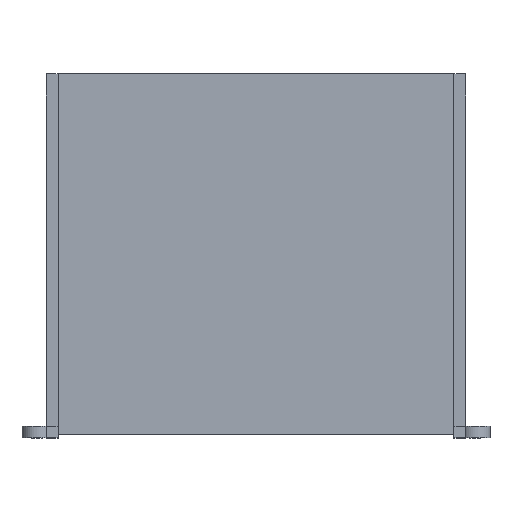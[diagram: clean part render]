
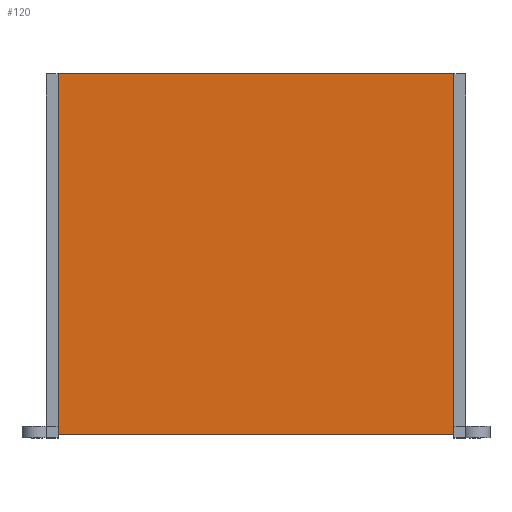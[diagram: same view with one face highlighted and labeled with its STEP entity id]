
A CAD part, top view. The second image highlights one B-rep face of the part: STEP entity #120.
In plain terms, the highlighted planar face has unit normal (0, 0, 1).
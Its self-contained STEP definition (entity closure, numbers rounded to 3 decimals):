
#79 = VERTEX_POINT('',#80);
#80 = CARTESIAN_POINT('',(223.,-250.8,55.));
#86 = EDGE_CURVE('',#87,#79,#89,.T.);
#87 = VERTEX_POINT('',#88);
#88 = CARTESIAN_POINT('',(121.,-250.8,55.));
#89 = LINE('',#90,#91);
#90 = CARTESIAN_POINT('',(118.,-250.8,55.));
#91 = VECTOR('',#92,1.);
#92 = DIRECTION('',(1.,0.,-0.));
#120 = ADVANCED_FACE('',(#121),#146,.T.);
#121 = FACE_BOUND('',#122,.T.);
#122 = EDGE_LOOP('',(#123,#131,#132,#140));
#123 = ORIENTED_EDGE('',*,*,#124,.F.);
#124 = EDGE_CURVE('',#87,#125,#127,.T.);
#125 = VERTEX_POINT('',#126);
#126 = CARTESIAN_POINT('',(121.,-158.,55.));
#127 = LINE('',#128,#129);
#128 = CARTESIAN_POINT('',(121.,-250.8,55.));
#129 = VECTOR('',#130,1.);
#130 = DIRECTION('',(-0.,1.,0.));
#131 = ORIENTED_EDGE('',*,*,#86,.T.);
#132 = ORIENTED_EDGE('',*,*,#133,.T.);
#133 = EDGE_CURVE('',#79,#134,#136,.T.);
#134 = VERTEX_POINT('',#135);
#135 = CARTESIAN_POINT('',(223.,-158.,55.));
#136 = LINE('',#137,#138);
#137 = CARTESIAN_POINT('',(223.,-250.8,55.));
#138 = VECTOR('',#139,1.);
#139 = DIRECTION('',(-0.,1.,0.));
#140 = ORIENTED_EDGE('',*,*,#141,.F.);
#141 = EDGE_CURVE('',#125,#134,#142,.T.);
#142 = LINE('',#143,#144);
#143 = CARTESIAN_POINT('',(118.,-158.,55.));
#144 = VECTOR('',#145,1.);
#145 = DIRECTION('',(1.,0.,-0.));
#146 = PLANE('',#147);
#147 = AXIS2_PLACEMENT_3D('',#148,#149,#150);
#148 = CARTESIAN_POINT('',(118.,-250.8,55.));
#149 = DIRECTION('',(0.,0.,1.));
#150 = DIRECTION('',(1.,0.,-0.));
